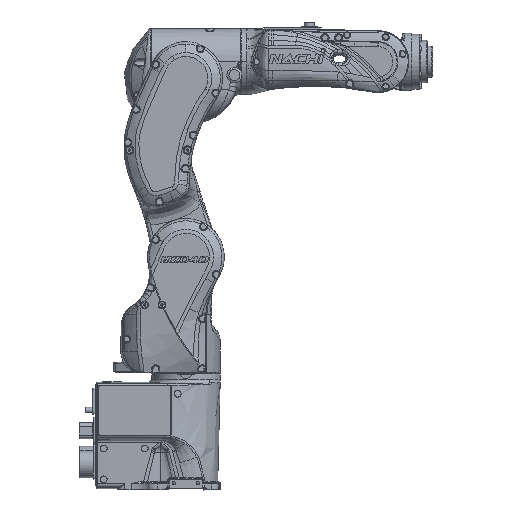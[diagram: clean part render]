
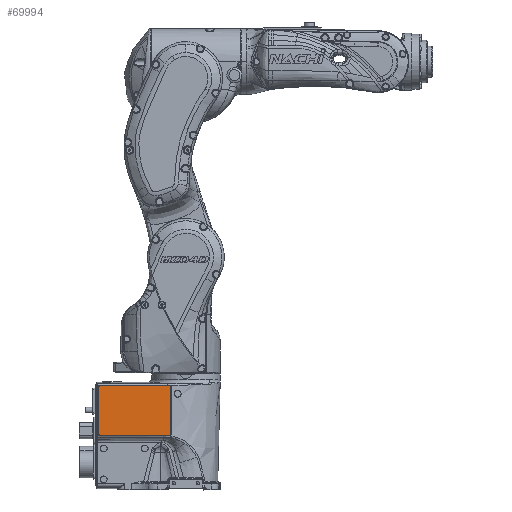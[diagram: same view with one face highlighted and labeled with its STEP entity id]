
A CAD part, front view. The second image highlights one B-rep face of the part: STEP entity #69994.
In plain terms, the highlighted planar face has unit normal (0, -1, 0).
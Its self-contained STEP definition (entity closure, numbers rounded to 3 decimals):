
#9716=PLANE('',#74616);
#11113=FACE_OUTER_BOUND('',#15441,.T.);
#15441=EDGE_LOOP('',(#49102,#49103,#49104,#49105,#49106,#49107,#49108,#49109));
#19494=CIRCLE('',#74481,2.);
#19495=CIRCLE('',#74484,2.);
#19496=CIRCLE('',#74487,2.);
#19497=CIRCLE('',#74490,2.);
#22177=LINE('',#124442,#24702);
#22180=LINE('',#124450,#24705);
#22183=LINE('',#124458,#24708);
#22186=LINE('',#124465,#24711);
#24702=VECTOR('',#81056,1.);
#24705=VECTOR('',#81065,1.);
#24708=VECTOR('',#81074,1.);
#24711=VECTOR('',#81083,1.);
#27639=VERTEX_POINT('',#124435);
#27640=VERTEX_POINT('',#124437);
#27641=VERTEX_POINT('',#124441);
#27642=VERTEX_POINT('',#124445);
#27643=VERTEX_POINT('',#124449);
#27644=VERTEX_POINT('',#124453);
#27645=VERTEX_POINT('',#124457);
#27646=VERTEX_POINT('',#124461);
#35656=EDGE_CURVE('',#27640,#27639,#19494,.F.);
#35657=EDGE_CURVE('',#27641,#27639,#22177,.T.);
#35660=EDGE_CURVE('',#27641,#27642,#19495,.F.);
#35661=EDGE_CURVE('',#27643,#27642,#22180,.T.);
#35663=EDGE_CURVE('',#27643,#27644,#19496,.F.);
#35665=EDGE_CURVE('',#27645,#27644,#22183,.T.);
#35668=EDGE_CURVE('',#27645,#27646,#19497,.F.);
#35669=EDGE_CURVE('',#27640,#27646,#22186,.T.);
#49102=ORIENTED_EDGE('',*,*,#35669,.T.);
#49103=ORIENTED_EDGE('',*,*,#35668,.F.);
#49104=ORIENTED_EDGE('',*,*,#35665,.T.);
#49105=ORIENTED_EDGE('',*,*,#35663,.F.);
#49106=ORIENTED_EDGE('',*,*,#35661,.T.);
#49107=ORIENTED_EDGE('',*,*,#35660,.F.);
#49108=ORIENTED_EDGE('',*,*,#35657,.T.);
#49109=ORIENTED_EDGE('',*,*,#35656,.F.);
#69994=ADVANCED_FACE('',(#11113),#9716,.T.);
#74481=AXIS2_PLACEMENT_3D('',#124439,#81052,#81053);
#74484=AXIS2_PLACEMENT_3D('',#124447,#81061,#81062);
#74487=AXIS2_PLACEMENT_3D('',#124454,#81069,#81070);
#74490=AXIS2_PLACEMENT_3D('',#124463,#81079,#81080);
#74616=AXIS2_PLACEMENT_3D('',#127604,#81417,#81418);
#81052=DIRECTION('center_axis',(0.,-1.,0.));
#81053=DIRECTION('ref_axis',(0.,0.,1.));
#81056=DIRECTION('',(0.,0.,1.));
#81061=DIRECTION('center_axis',(0.,-1.,0.));
#81062=DIRECTION('ref_axis',(0.,0.,1.));
#81065=DIRECTION('',(1.,0.,0.));
#81069=DIRECTION('center_axis',(0.,-1.,0.));
#81070=DIRECTION('ref_axis',(0.,0.,1.));
#81074=DIRECTION('',(0.,0.,-1.));
#81079=DIRECTION('center_axis',(0.,-1.,0.));
#81080=DIRECTION('ref_axis',(0.,0.,1.));
#81083=DIRECTION('',(-1.,0.,0.));
#81417=DIRECTION('center_axis',(0.,-1.,0.));
#81418=DIRECTION('ref_axis',(1.,0.,0.));
#124435=CARTESIAN_POINT('',(-22.,-78.3,150.));
#124437=CARTESIAN_POINT('',(-24.,-78.3,152.));
#124439=CARTESIAN_POINT('Origin',(-24.,-78.3,150.));
#124441=CARTESIAN_POINT('',(-22.,-78.3,82.));
#124442=CARTESIAN_POINT('',(-22.,-78.3,116.));
#124445=CARTESIAN_POINT('',(-24.,-78.3,80.));
#124447=CARTESIAN_POINT('Origin',(-24.,-78.3,82.));
#124449=CARTESIAN_POINT('',(-125.,-78.3,80.));
#124450=CARTESIAN_POINT('',(-74.5,-78.3,80.));
#124453=CARTESIAN_POINT('',(-127.,-78.3,82.));
#124454=CARTESIAN_POINT('Origin',(-125.,-78.3,82.));
#124457=CARTESIAN_POINT('',(-127.,-78.3,150.));
#124458=CARTESIAN_POINT('',(-127.,-78.3,116.));
#124461=CARTESIAN_POINT('',(-125.,-78.3,152.));
#124463=CARTESIAN_POINT('Origin',(-125.,-78.3,150.));
#124465=CARTESIAN_POINT('',(-74.5,-78.3,152.));
#127604=CARTESIAN_POINT('Origin',(-127.,-78.3,80.));
